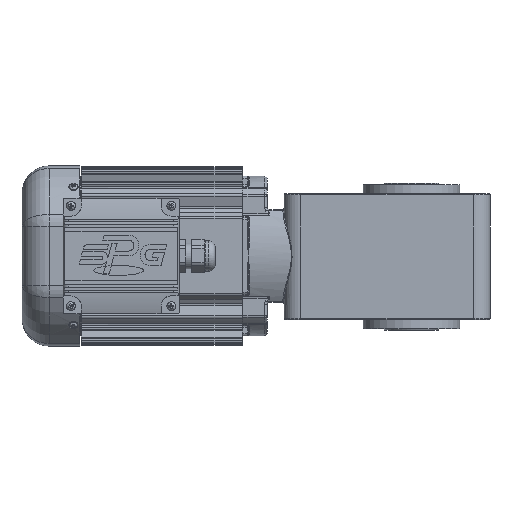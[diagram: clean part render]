
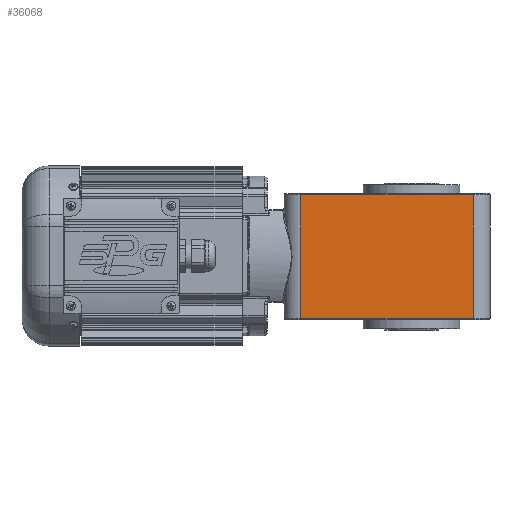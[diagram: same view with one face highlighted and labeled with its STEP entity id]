
A CAD part, front view. The second image highlights one B-rep face of the part: STEP entity #36068.
In plain terms, the highlighted planar face has unit normal (0, -1, 0).
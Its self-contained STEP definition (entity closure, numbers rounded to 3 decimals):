
#2421=LINE('',#60766,#4867);
#2596=LINE('',#61393,#5042);
#2626=LINE('',#61692,#5072);
#2627=LINE('',#61693,#5073);
#4867=VECTOR('',#47914,134.);
#5042=VECTOR('',#48543,134.);
#5072=VECTOR('',#48793,11.);
#5073=VECTOR('',#48794,11.);
#8127=FACE_OUTER_BOUND('',#10270,.T.);
#10270=EDGE_LOOP('',(#29008,#29009,#29010,#29011));
#15369=VERTEX_POINT('',#60763);
#15370=VERTEX_POINT('',#60765);
#15553=VERTEX_POINT('',#61385);
#15555=VERTEX_POINT('',#61391);
#19829=EDGE_CURVE('',#15369,#15370,#2421,.T.);
#20113=EDGE_CURVE('',#15555,#15553,#2596,.T.);
#20215=EDGE_CURVE('',#15555,#15370,#2626,.T.);
#20216=EDGE_CURVE('',#15553,#15369,#2627,.T.);
#29008=ORIENTED_EDGE('',*,*,#20113,.F.);
#29009=ORIENTED_EDGE('',*,*,#20215,.T.);
#29010=ORIENTED_EDGE('',*,*,#19829,.F.);
#29011=ORIENTED_EDGE('',*,*,#20216,.F.);
#32458=PLANE('',#39752);
#36068=ADVANCED_FACE('',(#8127),#32458,.T.);
#39752=AXIS2_PLACEMENT_3D('',#61691,#48791,#48792);
#47914=DIRECTION('',(1.,0.,0.));
#48543=DIRECTION('',(-1.,0.,0.));
#48791=DIRECTION('center_axis',(0.,-1.,0.));
#48792=DIRECTION('ref_axis',(0.,0.,-1.));
#48793=DIRECTION('',(0.,0.,1.));
#48794=DIRECTION('',(0.,0.,1.));
#60763=CARTESIAN_POINT('',(-55.507,-75.117,47.498));
#60765=CARTESIAN_POINT('',(78.493,-75.117,47.498));
#60766=CARTESIAN_POINT('',(-55.507,-75.117,47.498));
#61385=CARTESIAN_POINT('',(-55.507,-75.117,-48.502));
#61391=CARTESIAN_POINT('',(78.493,-75.117,-48.502));
#61393=CARTESIAN_POINT('',(78.493,-75.117,-48.502));
#61691=CARTESIAN_POINT('Origin',(78.493,-75.117,37.998));
#61692=CARTESIAN_POINT('',(78.493,-75.117,36.498));
#61693=CARTESIAN_POINT('',(-55.507,-75.117,36.498));
